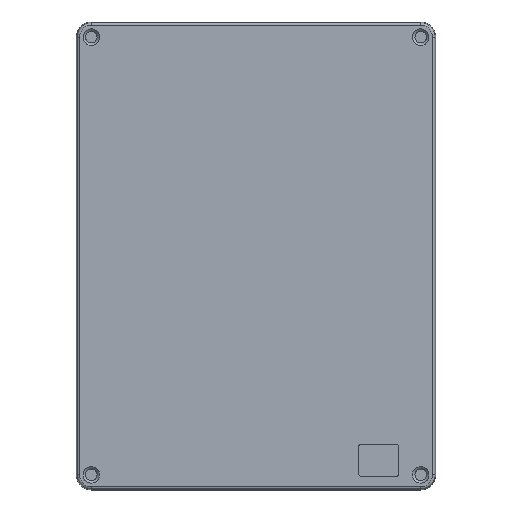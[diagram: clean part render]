
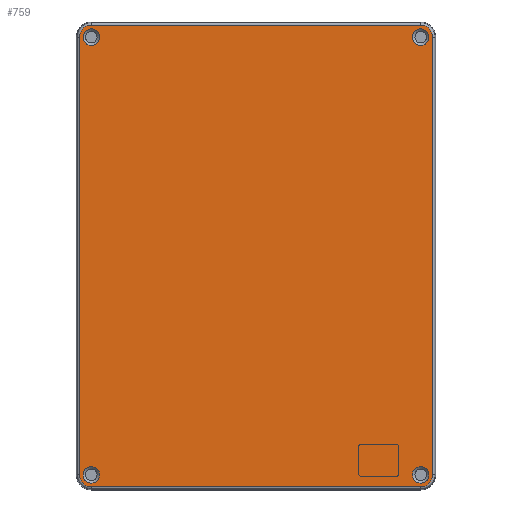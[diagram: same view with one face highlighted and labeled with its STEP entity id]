
A CAD part, top view. The second image highlights one B-rep face of the part: STEP entity #759.
In plain terms, the highlighted planar face has unit normal (0, 0, 1).
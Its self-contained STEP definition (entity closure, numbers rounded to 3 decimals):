
#759=ADVANCED_FACE('',(#1089,#1090,#1091,#1092,#1093),#976,.T.);
#976=PLANE('',#4361);
#1013=ELLIPSE('',#4357,7.25,7.25);
#1014=ELLIPSE('',#4358,7.25,7.25);
#1015=ELLIPSE('',#4359,7.25,7.25);
#1016=ELLIPSE('',#4360,7.25,7.25);
#1089=FACE_BOUND('',#1108,.T.);
#1090=FACE_BOUND('',#1109,.T.);
#1091=FACE_BOUND('',#1110,.T.);
#1092=FACE_BOUND('',#1111,.T.);
#1093=FACE_BOUND('',#1112,.T.);
#1108=EDGE_LOOP('',(#1406,#1407,#1408,#1409,#1410,#1411,#1412,#1413));
#1109=EDGE_LOOP('',(#1414));
#1110=EDGE_LOOP('',(#1415));
#1111=EDGE_LOOP('',(#1416));
#1112=EDGE_LOOP('',(#1417));
#1338=CIRCLE('',#4353,10.455);
#1339=CIRCLE('',#4354,10.455);
#1340=CIRCLE('',#4355,10.455);
#1341=CIRCLE('',#4356,10.455);
#1406=ORIENTED_EDGE('',*,*,#2990,.T.);
#1407=ORIENTED_EDGE('',*,*,#2991,.T.);
#1408=ORIENTED_EDGE('',*,*,#2992,.T.);
#1409=ORIENTED_EDGE('',*,*,#2993,.F.);
#1410=ORIENTED_EDGE('',*,*,#2994,.F.);
#1411=ORIENTED_EDGE('',*,*,#2995,.T.);
#1412=ORIENTED_EDGE('',*,*,#2996,.F.);
#1413=ORIENTED_EDGE('',*,*,#2997,.F.);
#1414=ORIENTED_EDGE('',*,*,#2998,.T.);
#1415=ORIENTED_EDGE('',*,*,#2999,.F.);
#1416=ORIENTED_EDGE('',*,*,#3000,.F.);
#1417=ORIENTED_EDGE('',*,*,#3001,.T.);
#2506=VERTEX_POINT('',#5618);
#2507=VERTEX_POINT('',#5619);
#2508=VERTEX_POINT('',#5621);
#2509=VERTEX_POINT('',#5623);
#2510=VERTEX_POINT('',#5625);
#2511=VERTEX_POINT('',#5627);
#2512=VERTEX_POINT('',#5629);
#2513=VERTEX_POINT('',#5631);
#2514=VERTEX_POINT('',#5634);
#2515=VERTEX_POINT('',#5636);
#2516=VERTEX_POINT('',#5638);
#2517=VERTEX_POINT('',#5640);
#2990=EDGE_CURVE('',#2506,#2507,#3684,.T.);
#2991=EDGE_CURVE('',#2507,#2508,#1338,.T.);
#2992=EDGE_CURVE('',#2508,#2509,#3685,.T.);
#2993=EDGE_CURVE('',#2510,#2509,#1339,.T.);
#2994=EDGE_CURVE('',#2511,#2510,#3686,.T.);
#2995=EDGE_CURVE('',#2511,#2512,#1340,.T.);
#2996=EDGE_CURVE('',#2513,#2512,#3687,.T.);
#2997=EDGE_CURVE('',#2506,#2513,#1341,.T.);
#2998=EDGE_CURVE('',#2514,#2514,#1013,.T.);
#2999=EDGE_CURVE('',#2515,#2515,#1014,.T.);
#3000=EDGE_CURVE('',#2516,#2516,#1015,.T.);
#3001=EDGE_CURVE('',#2517,#2517,#1016,.T.);
#3684=LINE('',#5617,#4018);
#3685=LINE('',#5622,#4019);
#3686=LINE('',#5626,#4020);
#3687=LINE('',#5630,#4021);
#4018=VECTOR('',#4664,1.);
#4019=VECTOR('',#4667,1.);
#4020=VECTOR('',#4670,1.);
#4021=VECTOR('',#4673,1.);
#4353=AXIS2_PLACEMENT_3D('',#5620,#4665,#4666);
#4354=AXIS2_PLACEMENT_3D('',#5624,#4668,#4669);
#4355=AXIS2_PLACEMENT_3D('',#5628,#4671,#4672);
#4356=AXIS2_PLACEMENT_3D('',#5632,#4674,#4675);
#4357=AXIS2_PLACEMENT_3D('',#5633,#4676,#4677);
#4358=AXIS2_PLACEMENT_3D('',#5635,#4678,#4679);
#4359=AXIS2_PLACEMENT_3D('',#5637,#4680,#4681);
#4360=AXIS2_PLACEMENT_3D('',#5639,#4682,#4683);
#4361=AXIS2_PLACEMENT_3D('',#5641,#4684,#4685);
#4664=DIRECTION('',(-1.,0.,0.));
#4665=DIRECTION('',(0.,0.,1.));
#4666=DIRECTION('',(1.,0.,0.));
#4667=DIRECTION('',(0.,-1.,0.));
#4668=DIRECTION('',(0.,0.,-1.));
#4669=DIRECTION('',(1.,0.,0.));
#4670=DIRECTION('',(-1.,0.,0.));
#4671=DIRECTION('',(0.,0.,1.));
#4672=DIRECTION('',(1.,0.,0.));
#4673=DIRECTION('',(0.,-1.,0.));
#4674=DIRECTION('',(0.,0.,-1.));
#4675=DIRECTION('',(1.,0.,0.));
#4676=DIRECTION('',(0.,0.,-1.));
#4677=DIRECTION('',(0.,-1.,0.));
#4678=DIRECTION('',(0.,0.,1.));
#4679=DIRECTION('',(0.,1.,0.));
#4680=DIRECTION('',(0.,0.,1.));
#4681=DIRECTION('',(0.,-1.,0.));
#4682=DIRECTION('',(0.,0.,-1.));
#4683=DIRECTION('',(0.,1.,0.));
#4684=DIRECTION('',(0.,0.,1.));
#4685=DIRECTION('',(-1.,0.,0.));
#5617=CARTESIAN_POINT('',(144.25,202.205,150.5));
#5618=CARTESIAN_POINT('',(144.25,202.205,150.5));
#5619=CARTESIAN_POINT('',(-144.25,202.205,150.5));
#5620=CARTESIAN_POINT('',(-144.25,191.75,150.5));
#5621=CARTESIAN_POINT('',(-154.705,191.75,150.5));
#5622=CARTESIAN_POINT('',(-154.705,191.75,150.5));
#5623=CARTESIAN_POINT('',(-154.705,-191.75,150.5));
#5624=CARTESIAN_POINT('',(-144.25,-191.75,150.5));
#5625=CARTESIAN_POINT('',(-144.25,-202.205,150.5));
#5626=CARTESIAN_POINT('',(144.25,-202.205,150.5));
#5627=CARTESIAN_POINT('',(144.25,-202.205,150.5));
#5628=CARTESIAN_POINT('',(144.25,-191.75,150.5));
#5629=CARTESIAN_POINT('',(154.705,-191.75,150.5));
#5630=CARTESIAN_POINT('',(154.705,191.75,150.5));
#5631=CARTESIAN_POINT('',(154.705,191.75,150.5));
#5632=CARTESIAN_POINT('',(144.25,191.75,150.5));
#5633=CARTESIAN_POINT('',(144.25,191.75,150.5));
#5634=CARTESIAN_POINT('',(144.25,184.5,150.5));
#5635=CARTESIAN_POINT('',(144.25,-191.75,150.5));
#5636=CARTESIAN_POINT('',(144.25,-184.5,150.5));
#5637=CARTESIAN_POINT('',(-144.25,191.75,150.5));
#5638=CARTESIAN_POINT('',(-144.25,184.5,150.5));
#5639=CARTESIAN_POINT('',(-144.25,-191.75,150.5));
#5640=CARTESIAN_POINT('',(-144.25,-184.5,150.5));
#5641=CARTESIAN_POINT('',(-154.709,-202.209,150.5));
